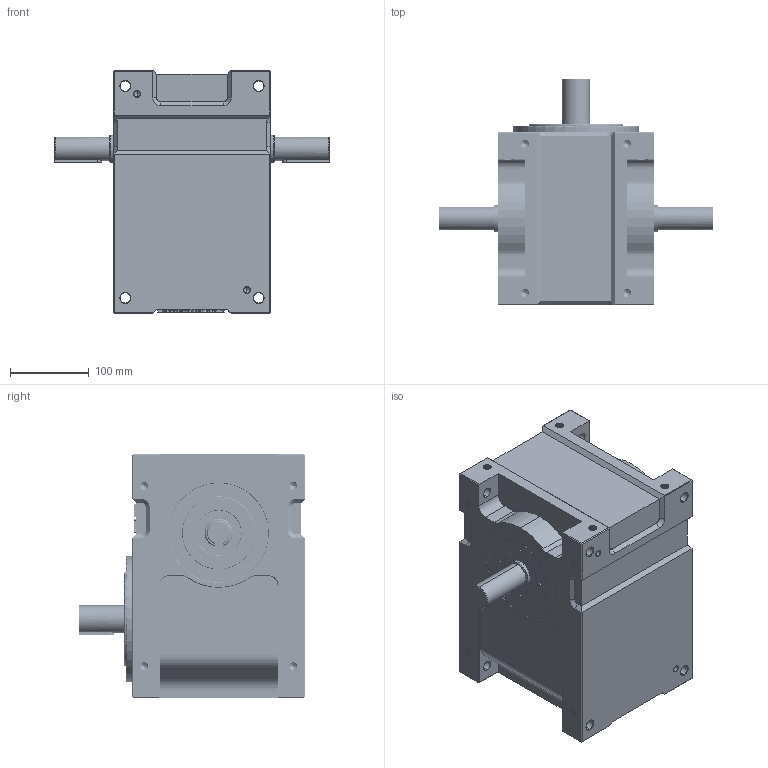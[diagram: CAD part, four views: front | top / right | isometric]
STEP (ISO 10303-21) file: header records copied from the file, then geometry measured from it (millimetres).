
FILE_DESCRIPTION (( 'STEP AP214' ), '1' );
FILE_NAME ('ER-RU110DE英锐凸轮分割器3D壳体和法兰面加销孔标准图纸(电话15062628977)AA.STEP', '2022-10-18T07:07:27', ( '微软用户' ), ( '微软中国' ), 'SwSTEP 2.0', 'SolidWorks 2017', '' );
FILE_SCHEMA (( 'AUTOMOTIVE_DESIGN' ));
Length unit declared in the file: millimetre
Products named in the file (1): ER-RU110DE英锐凸轮分割器3D壳体和法兰面加销孔标准图纸(电话15062628977)AA
Bounding box: 350 x 288 x 310 mm (x, y, z)
Volume: 12706863.6 mm3; surface area: 422287.6 mm2
Topology: 1 solids, 1 shells, 2056 faces, 5656 edges, 3682 vertices
Faces by surface type: plane 768, cylinder 684, bspline 407, cone 191, torus 6
Entity records: 154229 total; most frequent: CARTESIAN_POINT 107861, ORIENTED_EDGE 11208, DIRECTION 7031, EDGE_CURVE 5604, VERTEX_POINT 3682, VECTOR 3071, LINE 3071, EDGE_LOOP 2204
